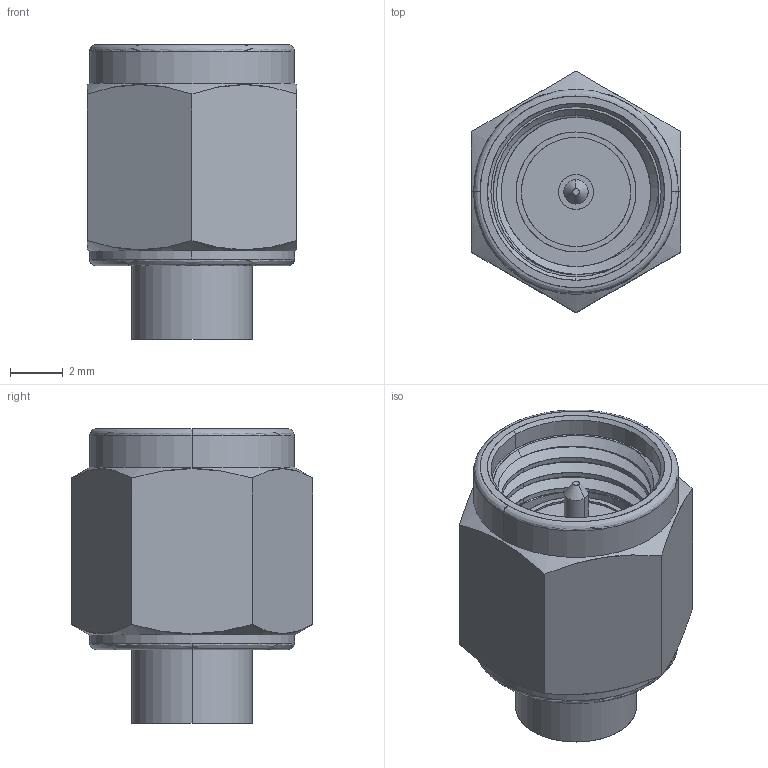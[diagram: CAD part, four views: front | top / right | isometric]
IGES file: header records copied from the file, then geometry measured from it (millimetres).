
Start section: SolidWorks IGES file using analytic representation for surfaces
Global section: file name: C:\Users\sculpepper.DELTAELECTRONIC\Desktop\SMA\SMA_igs\1301031G003-003.IGS; native system: SolidWorks 2013; preprocessor: SolidWorks 2013; author: sculpepper; date: 150310.091451; units: inch
Bounding box: 7.92 x 9.15 x 11.18 mm (x, y, z)
Surface area: 561.6 mm2 (no closed solid volume)
Topology: 0 solids, 0 shells, 73 faces, 1248 edges, 1248 vertices
Faces by surface type: revolution 47, bspline 26
